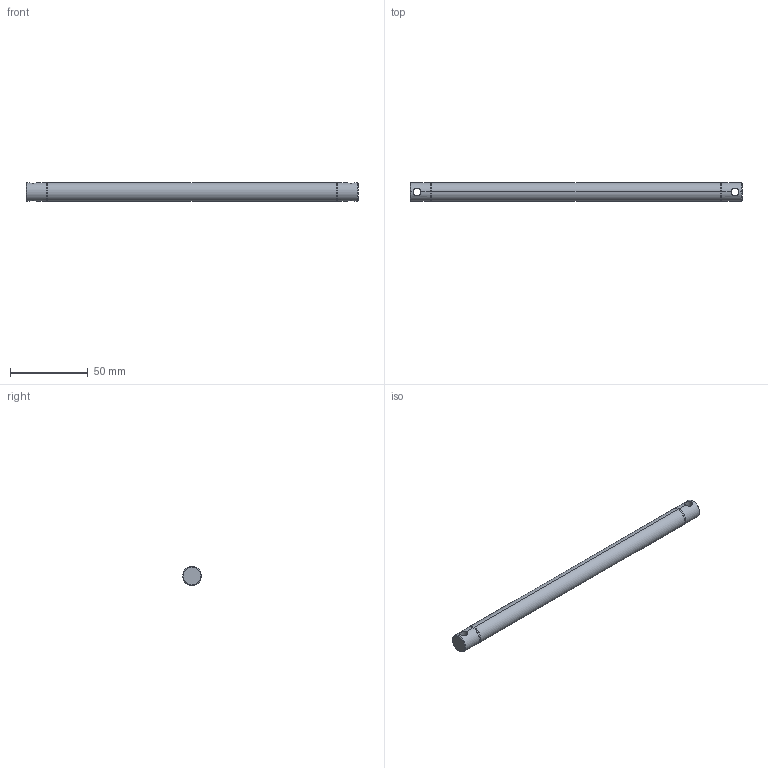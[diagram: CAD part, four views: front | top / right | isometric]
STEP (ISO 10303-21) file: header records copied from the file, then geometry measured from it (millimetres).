
FILE_DESCRIPTION (( 'STEP AP214' ), '1' );
FILE_NAME ('084.030.126.STEP', '2021-02-05T15:40:00', ( '' ), ( '' ), 'SwSTEP 2.0', 'SolidWorks 2018', '' );
FILE_SCHEMA (( 'AUTOMOTIVE_DESIGN' ));
Length unit declared in the file: millimetre
Products named in the file (1): 084.030.126
Bounding box: 213 x 12 x 12 mm (x, y, z)
Volume: 23599.5 mm3; surface area: 8546.5 mm2
Topology: 1 solids, 1 shells, 24 faces, 54 edges, 32 vertices
Faces by surface type: cylinder 14, plane 6, cone 4
Entity records: 976 total; most frequent: CARTESIAN_POINT 351, DIRECTION 120, ORIENTED_EDGE 108, EDGE_CURVE 54, AXIS2_PLACEMENT_3D 49, VERTEX_POINT 32, EDGE_LOOP 28, FACE_OUTER_BOUND 24
